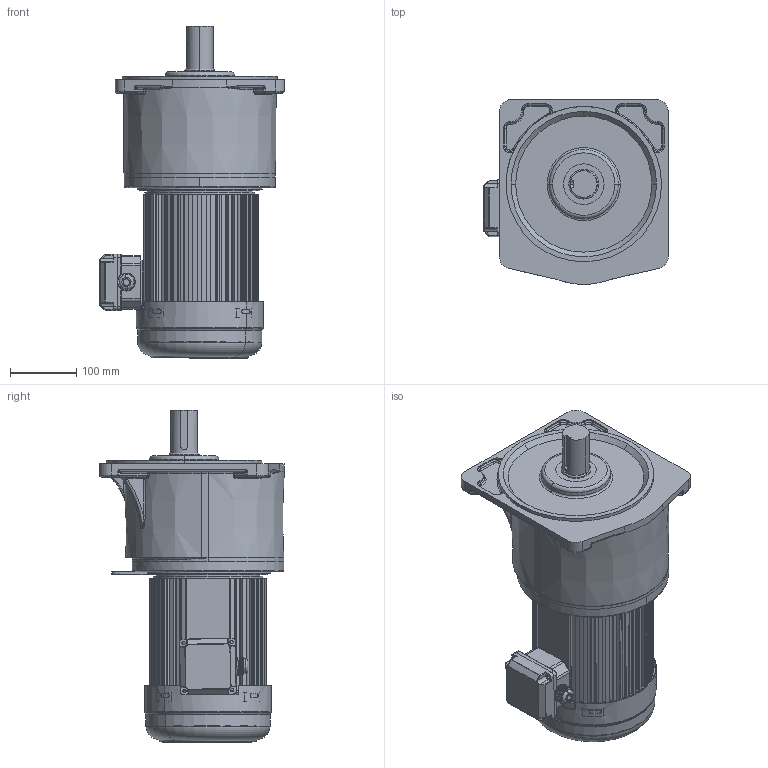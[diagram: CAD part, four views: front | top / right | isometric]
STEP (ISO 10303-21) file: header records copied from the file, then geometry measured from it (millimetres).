
FILE_DESCRIPTION (( 'STEP AP203' ), '1' );
FILE_NAME ('1500WÅä5#´øÉ²³µ.STEP', '2020-04-16T08:46:33', ( 'china' ), ( 'china' ), 'SwSTEP 2.0', 'SolidWorks 2019', '' );
FILE_SCHEMA (( 'CONFIG_CONTROL_DESIGN' ));
Length unit declared in the file: millimetre
Products named in the file (10): 1500W儂褲; 1500W饜5#湍价陬; 瑞欶; 諉芛; 蜊輛綴諉盄碟釱3; 湍价陬諉盄碟裔; 1500W棠憤迖殤; 5-1500w2200wxianggai; 5-lishixiangti; 怀堤粣
Assembly tree (9 placements, depth 2):
  1500W饜5#湍价陬
    1500W儂褲
    瑞欶
    蜊輛綴諉盄碟釱3
    諉芛
    湍价陬諉盄碟裔
    1500W棠憤迖殤
    5-1500w2200wxianggai
    5-lishixiangti
    怀堤粣
Bounding box: 277.61 x 277.99 x 499.95 mm (x, y, z)
Volume: 3835776.1 mm3; surface area: 1228109.2 mm2
Topology: 9 solids, 20 shells, 3151 faces, 8346 edges, 5250 vertices
Faces by surface type: plane 1194, cylinder 1158, bspline 464, torus 250, sphere 54, cone 31
Entity records: 131600 total; most frequent: CARTESIAN_POINT 54516, ORIENTED_EDGE 16566, DIRECTION 15148, EDGE_CURVE 8283, AXIS2_PLACEMENT_3D 5509, VERTEX_POINT 5235, VECTOR 4130, LINE 4130
